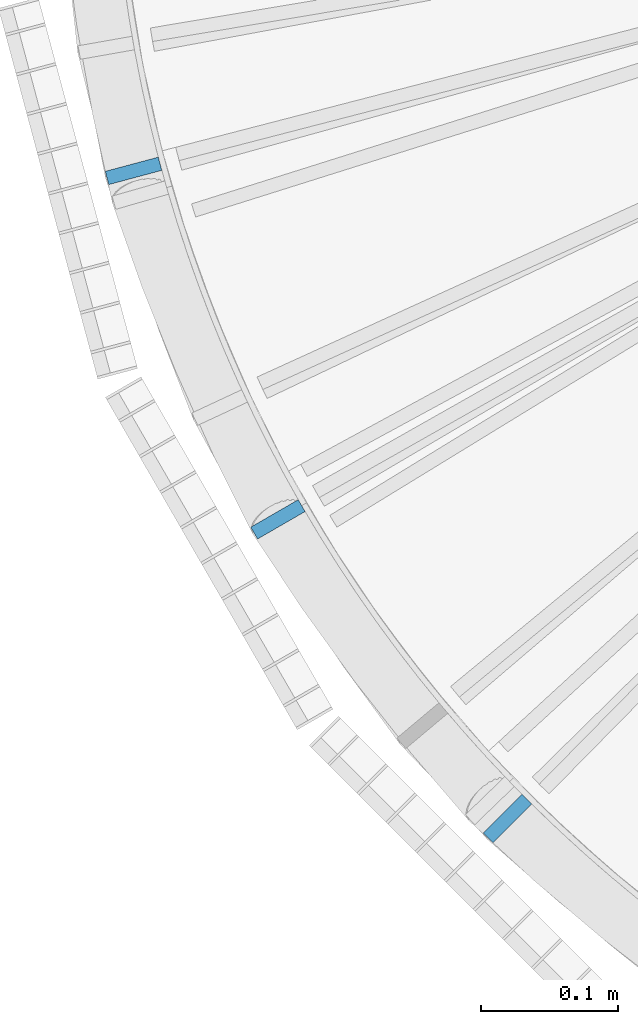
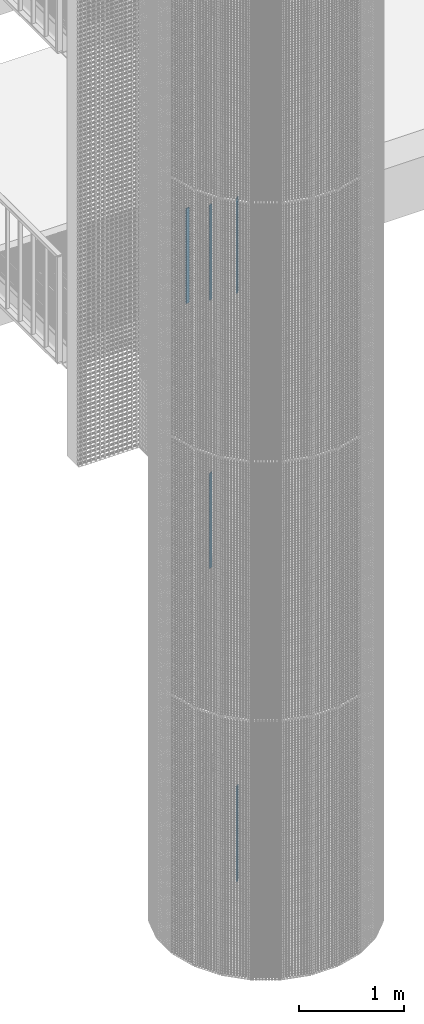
# One storey, part 2 of 1148: 5 columns, 5 elements without a shape of their own.
"""IFC2X3 building model written with IfcOpenShell, lengths in millimetres."""

from ifc_helpers import new_model, si_unit, frame, origin_with_axes, origin_2d_with_axis, place, context, subcontext, project, spatial, rectangle, extrude, material, type_object, element, aggregate, save


model = new_model("IFC2X3")

# Units and contexts
model_context = context("Model", 3, precision=1e-05, world=origin_with_axes())
body_context = subcontext(model_context, "Body", "Model", "MODEL_VIEW")
ifc_project = project(units=[si_unit("LENGTHUNIT", "METRE", prefix="MILLI"), si_unit("AREAUNIT", "SQUARE_METRE"), si_unit("VOLUMEUNIT", "CUBIC_METRE"), si_unit("MASSUNIT", "GRAM", prefix="KILO"), si_unit("TIMEUNIT", "SECOND"), si_unit("PLANEANGLEUNIT", "RADIAN"), si_unit("SOLIDANGLEUNIT", "STERADIAN"), si_unit("THERMODYNAMICTEMPERATUREUNIT", "DEGREE_CELSIUS"), si_unit("LUMINOUSINTENSITYUNIT", "LUMEN")], contexts=[model_context])

# Site, building, storey
site_placement = place(None, origin_with_axes())
site = spatial("IfcSite", under=ifc_project, at=site_placement, Name="Undefined", CompositionType="ELEMENT")
building_placement = place(site_placement, origin_with_axes())
building = spatial("IfcBuilding", under=site, at=building_placement, Name="Undefined", CompositionType="ELEMENT")
storey_placement = place(building_placement, origin_with_axes())
storey = spatial("IfcBuildingStorey", under=building, at=storey_placement, Name="Undefined", CompositionType="ELEMENT", Elevation=0.0)

# Assembly, column
assembly_1_placement = place(storey_placement, origin_with_axes())
assembly_1 = element("IfcElementAssembly", 1, at=assembly_1_placement, inside=storey, Name="MONTANT", AssemblyPlace="NOTDEFINED", PredefinedType="NOTDEFINED")
ifc_material = material(Name="STEEL/S235JR")
column_type = type_object("IfcColumnType", Name="PL10*40", PredefinedType="NOTDEFINED")
column_1_placement = place(assembly_1_placement, frame((-912.790775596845, -527.000000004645, 7742.16), z_axis=(0.0, 0.0, 1.0), x_axis=(0.866025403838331, 0.499999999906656, 0.0)))
column_1 = element("IfcColumn", 2, at=column_1_placement, type_object=column_type, material=ifc_material, Name="MONTANT", context=body_context, shape_type="SweptSolid", body=[
    extrude(rectangle(XDim=10.0, YDim=40.0, at=origin_2d_with_axis()), frame((0.0, 0.0, 1100.0), z_axis=(0.0, 0.0, -1.0), x_axis=(0.0, 1.0, 0.0)), (0.0, 0.0, 1.0), 1100.0),
])
aggregate(assembly_1, [column_1])

assembly_2_placement = place(storey_placement, origin_with_axes())
assembly_2 = element("IfcElementAssembly", 3, at=assembly_2_placement, inside=storey, Name="MONTANT", AssemblyPlace="NOTDEFINED", PredefinedType="NOTDEFINED")
column_2_placement = place(assembly_2_placement, frame((-1018.08582090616, -272.795273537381, 7585.64), z_axis=(0.0, 0.0, 1.0), x_axis=(0.965925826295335, 0.258819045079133, 0.0)))
column_2 = element("IfcColumn", 4, at=column_2_placement, type_object=column_type, material=ifc_material, Name="MONTANT", context=body_context, shape_type="SweptSolid", body=[
    extrude(rectangle(XDim=10.0, YDim=40.0, at=origin_2d_with_axis()), frame((0.0, 0.0, 1100.0), z_axis=(0.0, 0.0, -1.0), x_axis=(0.0, 1.0, 0.0)), (0.0, 0.0, 1.0), 1100.0),
])
aggregate(assembly_2, [column_2])

assembly_3_placement = place(storey_placement, origin_with_axes())
assembly_3 = element("IfcElementAssembly", 5, at=assembly_3_placement, inside=storey, Name="MONTANT", AssemblyPlace="NOTDEFINED", PredefinedType="NOTDEFINED")
column_3_placement = place(assembly_3_placement, frame((-745.290547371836, -745.290547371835, 7898.68), z_axis=(0.0, 0.0, 1.0), x_axis=(0.707106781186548, 0.707106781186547, 0.0)))
column_3 = element("IfcColumn", 6, at=column_3_placement, type_object=column_type, material=ifc_material, Name="MONTANT", context=body_context, shape_type="SweptSolid", body=[
    extrude(rectangle(XDim=10.0, YDim=40.0, at=origin_2d_with_axis()), frame((0.0, 0.0, 1100.0), z_axis=(0.0, 0.0, -1.0), x_axis=(0.0, 1.0, 0.0)), (0.0, 0.0, 1.0), 1100.0),
])
aggregate(assembly_3, [column_3])

assembly_4_placement = place(storey_placement, origin_with_axes())
assembly_4 = element("IfcElementAssembly", 7, at=assembly_4_placement, inside=storey, Name="MONTANT", AssemblyPlace="NOTDEFINED", PredefinedType="NOTDEFINED")
column_4_placement = place(assembly_4_placement, frame((-745.290547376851, -745.290547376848, 1081.64), z_axis=(0.0, 0.0, 1.0), x_axis=(0.707106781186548, 0.707106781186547, 0.0)))
column_4 = element("IfcColumn", 8, at=column_4_placement, type_object=column_type, material=ifc_material, Name="MONTANT", context=body_context, shape_type="SweptSolid", body=[
    extrude(rectangle(XDim=10.0, YDim=40.0, at=origin_2d_with_axis()), frame((0.0, 0.0, 1100.0), z_axis=(0.0, 0.0, -1.0), x_axis=(0.0, 1.0, 0.0)), (0.0, 0.0, 1.0), 1100.0),
])
aggregate(assembly_4, [column_4])

assembly_5_placement = place(storey_placement, origin_with_axes())
assembly_5 = element("IfcElementAssembly", 9, at=assembly_5_placement, inside=storey, Name="MONTANT", AssemblyPlace="NOTDEFINED", PredefinedType="NOTDEFINED")
column_5_placement = place(assembly_5_placement, frame((-912.790775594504, -527.000000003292, 4635.6), z_axis=(0.0, 0.0, 1.0), x_axis=(0.866025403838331, 0.499999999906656, 0.0)))
column_5 = element("IfcColumn", 10, at=column_5_placement, type_object=column_type, material=ifc_material, Name="MONTANT", context=body_context, shape_type="SweptSolid", body=[
    extrude(rectangle(XDim=10.0, YDim=40.0, at=origin_2d_with_axis()), frame((0.0, 0.0, 1100.0), z_axis=(0.0, 0.0, -1.0), x_axis=(0.0, 1.0, 0.0)), (0.0, 0.0, 1.0), 1100.0),
])
aggregate(assembly_5, [column_5])

save(model, "model.ifc")
